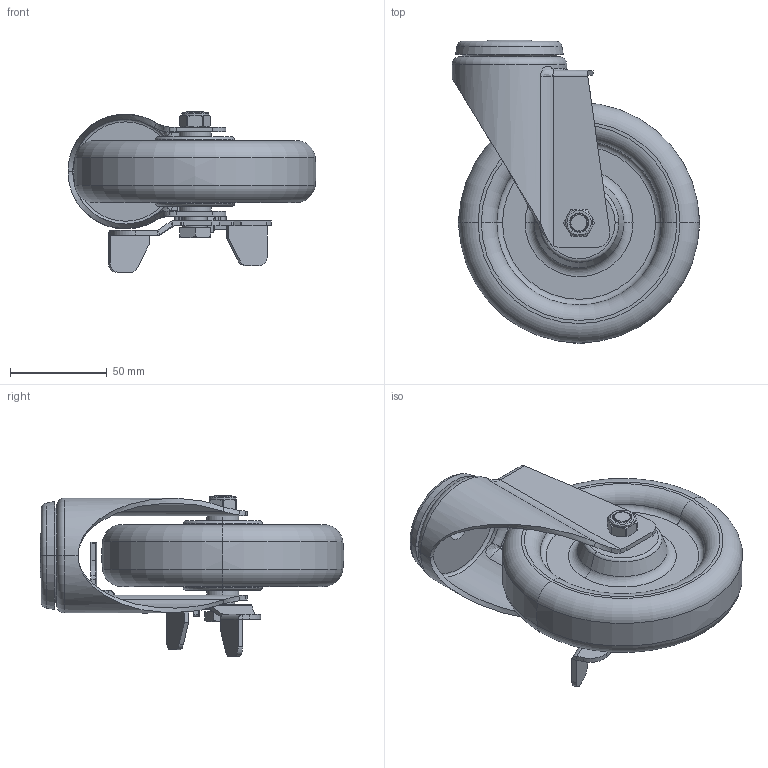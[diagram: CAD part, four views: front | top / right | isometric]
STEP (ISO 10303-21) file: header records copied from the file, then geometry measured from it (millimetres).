
FILE_DESCRIPTION((''),'2;1');
FILE_NAME('50185C-505-86_ASM','2020-01-07T',('L'),(''),'PRO/ENGINEER BY PARAMETRIC TECHNOLOGY CORPORATION, 2010280','PRO/ENGINEER BY PARAMETRIC TECHNOLOGY CORPORATION, 2010280','');
FILE_SCHEMA(('CONFIG_CONTROL_DESIGN'));
Length unit declared in the file: millimetre
Products named in the file (7): 50185C; 505-986; 502-33; 570-34; 503-15; 500-14; 50185C-505-86_ASM
Assembly tree (6 placements, depth 2):
  50185C-505-86_ASM
    50185C
    505-986
    502-33
    570-34
    503-15
    500-14
Bounding box: 128.1 x 156.65 x 83.14 mm (x, y, z)
Volume: 355699.5 mm3; surface area: 82892.9 mm2
Topology: 6 solids, 6 shells, 413 faces, 980 edges, 594 vertices
Faces by surface type: cylinder 146, plane 138, bspline 50, torus 42, cone 37
Entity records: 20415 total; most frequent: CARTESIAN_POINT 11087, ORIENTED_EDGE 1960, DIRECTION 1829, EDGE_CURVE 980, AXIS2_PLACEMENT_3D 696, VERTEX_POINT 594, EDGE_LOOP 442, VECTOR 437
